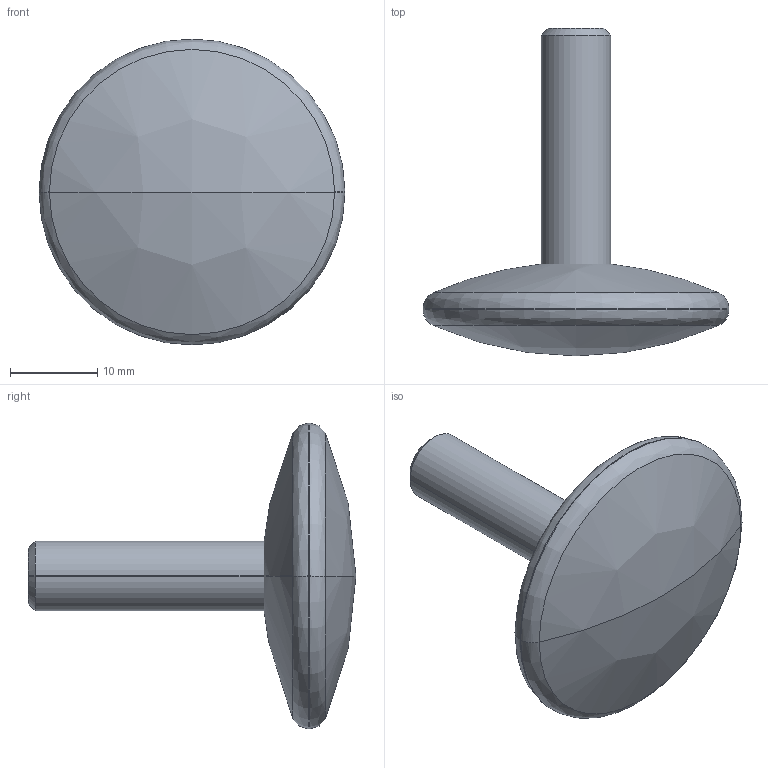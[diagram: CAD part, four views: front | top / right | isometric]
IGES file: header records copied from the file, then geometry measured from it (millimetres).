
Global section: file name: No Iges File Name specified; native system: AutoDesk Inventor R11.0; preprocessor: AutoDesk Inventor Iges Exporter R11.0; author: No Author specified; organization: No Organization specified; date: 20130722.151506; units: millimetre
Bounding box: 35 x 37.5 x 35 mm (x, y, z)
Surface area: 2918.6 mm2 (no closed solid volume)
Topology: 0 solids, 0 shells, 15 faces, 56 edges, 56 vertices
Faces by surface type: revolution 10, bspline 4, plane 1
